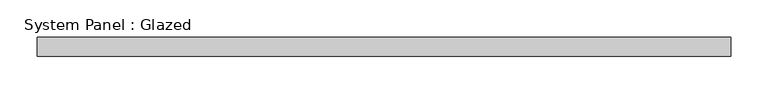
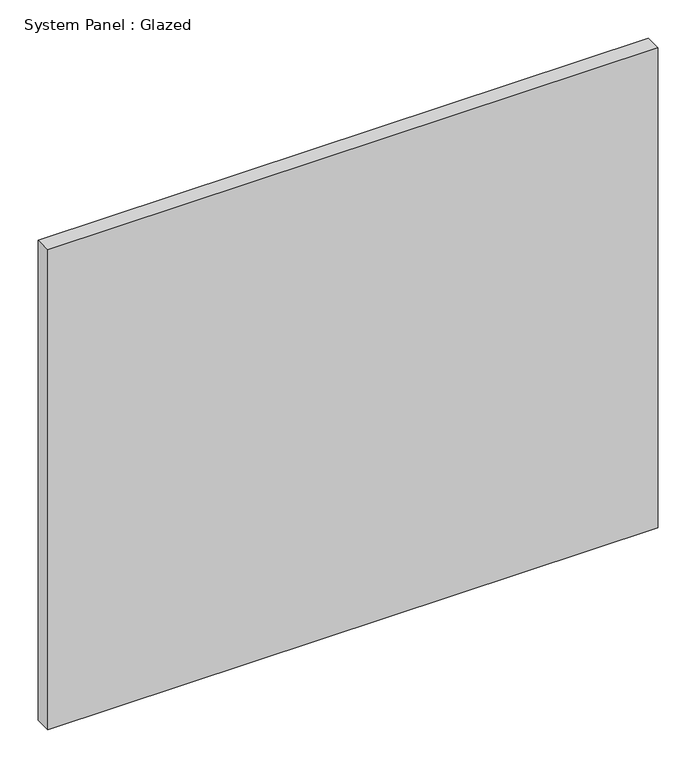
"""IFC4 building model written with IfcOpenShell, lengths in millimetres: plate geometry, System Panel : Glazed."""

from ifc_helpers import new_model, si_unit, origin, origin_with_axes, place, context, project, spatial, polyline, outline, extrude, source, transform, mapped, element, save


def system_panel_glazed_92ccbd79(model_context):
    return source(origin(), model_context, "Body", "SweptSolid", [
        extrude(outline(polyline([(463.55, 19.05), (-463.55, 19.05), (-463.55, 44.45), (463.55, 44.45), (463.55, 19.05)])), origin_with_axes(), (0.0, 0.0, 1.0), 770.6690025),
    ])


if __name__ == "__main__":
    model = new_model("IFC4")
    model_context = context("Model", 3, world=origin())
    ifc_project = project(units=[si_unit("LENGTHUNIT", "METRE", prefix="MILLI")], contexts=[model_context])
    site = spatial("IfcSite", under=ifc_project)
    building = spatial("IfcBuilding", under=site)
    placement = place(None, origin())
    system_panel_glazed_shape = system_panel_glazed_92ccbd79(model_context)
    element("IfcPlate", 1, ObjectType="System Panel : Glazed", at=placement, inside=building, context=model_context, shape_type="MappedRepresentation", body=[
        mapped(system_panel_glazed_shape, transform((0.0, 0.0, 0.0), x_axis=(1.0, 0.0, 0.0), y_axis=(0.0, 1.0, 0.0), z_axis=(0.0, 0.0, 1.0))),
    ])
    save(model, "model.ifc")
